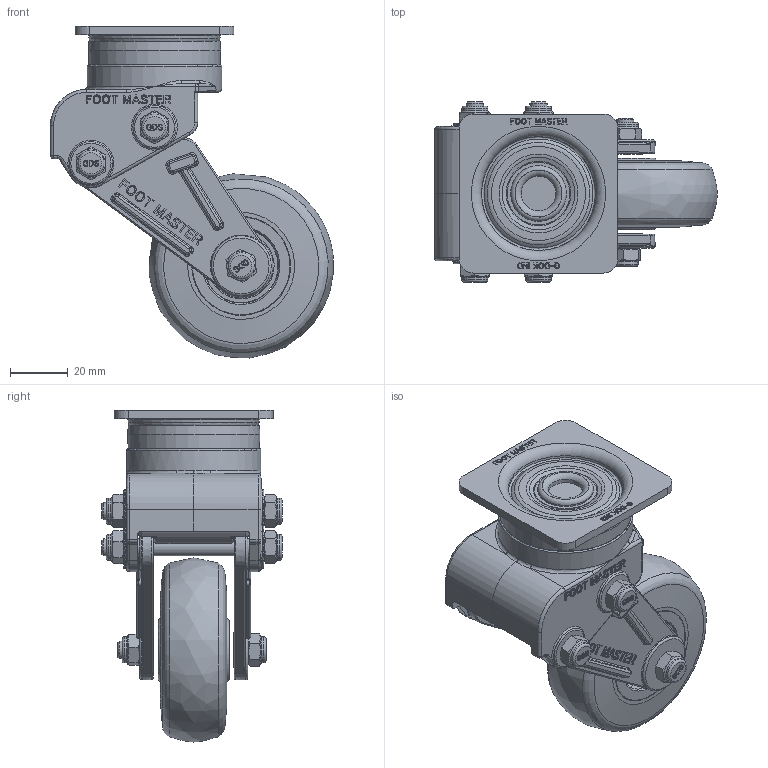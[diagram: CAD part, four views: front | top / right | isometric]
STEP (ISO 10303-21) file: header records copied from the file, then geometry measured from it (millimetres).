
FILE_DESCRIPTION(/* description */ (''),/* implementation_level */ '2;1');
FILE_NAME(/* name */ 'C:\Users\admin\Desktop\JYS\개발품\상세설계_20220328\홈페이지용 도면\GDS-65-ASF-EUS.stp',/* time_stamp */ '2023-03-08T15:09:28+09:00',/* author */ ('admin'),/* organization */ (''),/* preprocessor_version */ 'ST-DEVELOPER v18.1',/* originating_system */ 'Autodesk Inventor 2021',/* authorisation */ '');
FILE_SCHEMA (('AUTOMOTIVE_DESIGN { 1 0 10303 214 3 1 1 }'));
Products named in the file (1): GDS-65_ASF_REV01_Shrinkwrap_1
Bounding box: 97.95 x 62.3 x 114.87 mm (x, y, z)
Volume: 150665.4 mm3; surface area: 48956.5 mm2
Topology: 1 solids, 1 shells, 1976 faces, 5193 edges, 3335 vertices
Faces by surface type: plane 766, bspline 658, cylinder 261, cone 154, torus 121, sphere 16
Full cylindrical faces by diameter (mm): 6 x5, 8.8 x3, 9 x6, 12 x1, 17.216 x2, 18 x1, 19.3 x1, 20 x2, 22 x2, 22.784 x2, 30 x1, 43 x1, 44.5 x1, 46.5 x1
Entity records: 68342 total; most frequent: CARTESIAN_POINT 21657, ORIENTED_EDGE 10362, DIRECTION 7496, EDGE_CURVE 5181, VERTEX_POINT 3335, LINE 2524, VECTOR 2524, AXIS2_PLACEMENT_3D 2486
